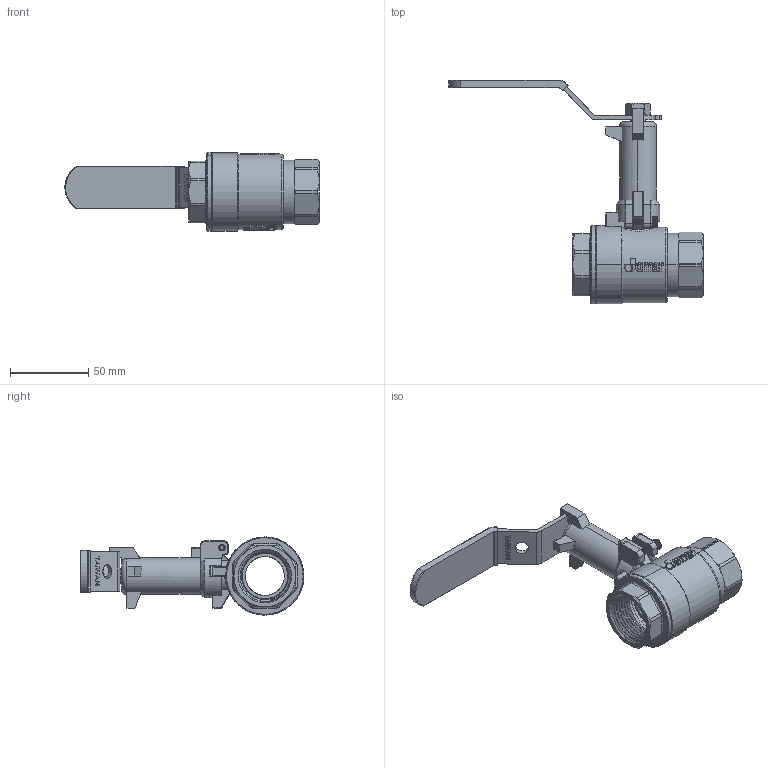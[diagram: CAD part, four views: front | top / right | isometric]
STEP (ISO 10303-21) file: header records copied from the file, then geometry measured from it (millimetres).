
FILE_DESCRIPTION (( 'STEP AP203' ), '1' );
FILE_NAME ('DN25-JOMAR增高套筒估價圖-牙口無掛鎖.STEP', '2024-04-09T07:45:28', ( '' ), ( '' ), 'SwSTEP 2.0', 'SolidWorks 2018', '' );
FILE_SCHEMA (( 'CONFIG_CONTROL_DESIGN' ));
Length unit declared in the file: millimetre
Products named in the file (17): DN25-JOMAR增高套筒估價圖-牙口無掛鎖; TBL265(無鑽孔); BBL705-1''''JOMAR球閥體-無鉛-端面無插溝; CBL235-20230914改; RBL264; CBL215-白色膠套-T-200CSSG; EBL205A; DN20-CBL704-HANDLE & SLEEVE 組合(白色T膠套); EBL205B; DN20-PIPE 2-2; GBL205 (組裝); DN20-白鐵中心栓+配件; BBL705A-1''''JOMAR球閥八角頭-端面無插溝; SCREW-M4-19L; EBL159; DN20-白鐵中心栓牙套; NBL265
Assembly tree (18 placements, depth 3):
  DN25-JOMAR增高套筒估價圖-牙口無掛鎖
    BBL705-1''''JOMAR球閥體-無鉛-端面無插溝
    RBL264
    EBL205A
    EBL205B
    GBL205 (組裝)
    BBL705A-1''''JOMAR球閥八角頭-端面無插溝
    EBL159  x2
    NBL265
    TBL265(無鑽孔)
    DN20-CBL704-HANDLE & SLEEVE 組合(白色T膠套)
      CBL235-20230914改
      CBL215-白色膠套-T-200CSSG
    CBL215-白色膠套-T-200CSSG
    DN20-PIPE 2-2
    DN20-白鐵中心栓+配件
    SCREW-M4-19L
    DN20-白鐵中心栓牙套
Bounding box: 162.7 x 143.21 x 50 mm (x, y, z)
Volume: 127456.1 mm3; surface area: 93782.3 mm2
Topology: 17 solids, 17 shells, 4183 faces, 11293 edges, 7455 vertices
Faces by surface type: plane 2235, bspline 1113, cylinder 619, cone 153, torus 49, sphere 14
Entity records: 159599 total; most frequent: CARTESIAN_POINT 94107, ORIENTED_EDGE 15046, DIRECTION 10394, EDGE_CURVE 7523, VERTEX_POINT 4950, VECTOR 4120, LINE 4120, AXIS2_PLACEMENT_3D 3137
